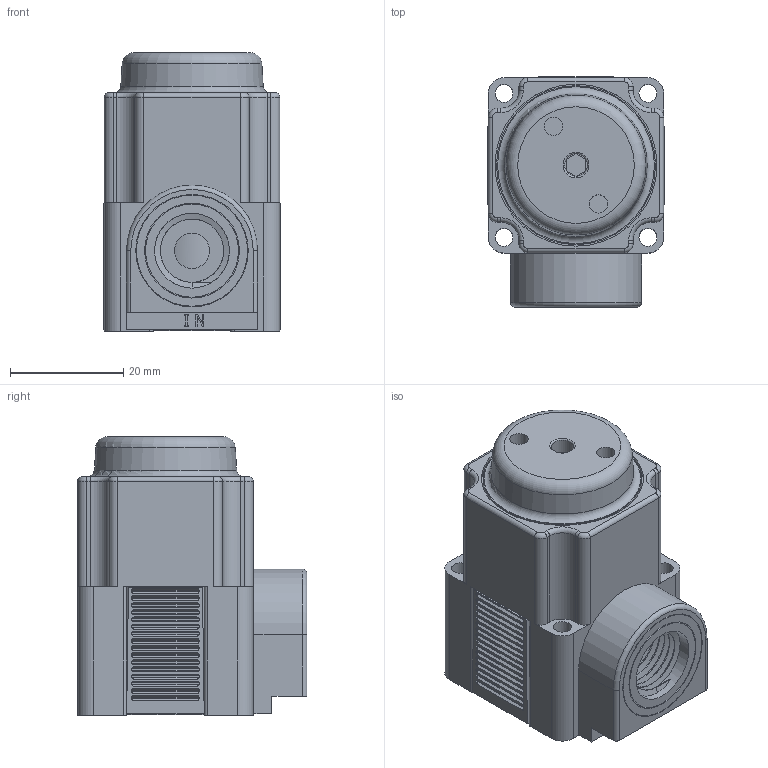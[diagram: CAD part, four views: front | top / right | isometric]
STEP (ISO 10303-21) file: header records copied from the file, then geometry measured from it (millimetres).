
FILE_DESCRIPTION(/* description */ (''),/* implementation_level */ '2;1');
FILE_NAME(/* name */ 'K:\Normteile INVENTOR\Air-Logic\Regulators\PR7000\PR 7___ 2 1''4-18 NPT Threads In.igs.ipt.stp',/* time_stamp */ '2020-05-27T10:53:53+02:00',/* author */ ('Paul'),/* organization */ (''),/* preprocessor_version */ 'ST-DEVELOPER v18',/* originating_system */ 'Autodesk Inventor 2020',/* authorisation */ '');
FILE_SCHEMA (('AUTOMOTIVE_DESIGN { 1 0 10303 214 3 1 1 }'));
Length unit declared in the file: inch
Products named in the file (1): PR 7___ 2 1'4-18 NPT Threads In.igs
Bounding box: 31.19 x 40.56 x 49.15 mm (x, y, z)
Volume: 42562.2 mm3; surface area: 13938.7 mm2
Topology: 1 solids, 1 shells, 621 faces, 1618 edges, 1057 vertices
Faces by surface type: plane 320, cylinder 263, bspline 18, torus 18, cone 2
Full cylindrical faces by diameter (mm): 3.175 x4, 3.226 x2, 4.013 x1, 6.223 x1, 6.248 x1, 11.163 x6, 13.208 x6, 16.408 x1, 16.717 x1, 19.612 x1, 19.825 x1, 26.264 x1, 27.991 x1, 28.047 x1, 28.575 x1
Entity records: 22936 total; most frequent: CARTESIAN_POINT 6571, DIRECTION 3427, ORIENTED_EDGE 3236, EDGE_CURVE 1618, AXIS2_PLACEMENT_3D 1336, VERTEX_POINT 1057, LINE 755, VECTOR 755
